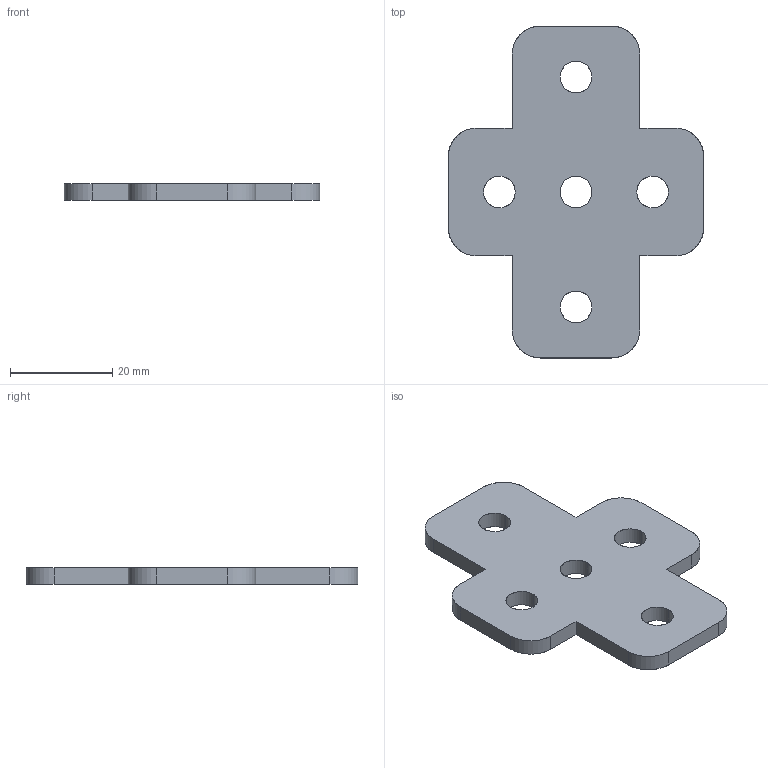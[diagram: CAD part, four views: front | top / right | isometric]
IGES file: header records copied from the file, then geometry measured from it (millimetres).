
Start section: SolidWorks IGES file using analytic representation for surfaces
Global section: file name: C:\Documents and Settings\CAD53\デスクトップ\IGES\N01913-105-1.IGS; native system: SolidWorks 2005 by SolidWorks Corporation; preprocessor: SolidWorks 2005 by SolidWorks Corporation; author: CAD53; date: 070530.091535; units: millimetre
Bounding box: 50 x 65 x 3.2 mm (x, y, z)
Surface area: 5081.4 mm2 (no closed solid volume)
Topology: 0 solids, 0 shells, 32 faces, 592 edges, 592 vertices
Faces by surface type: revolution 18, bspline 14
